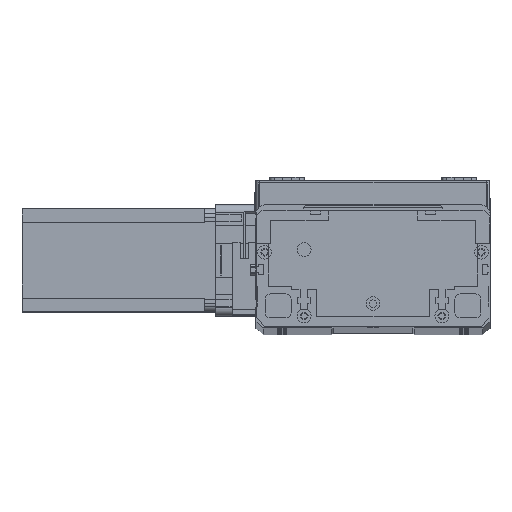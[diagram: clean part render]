
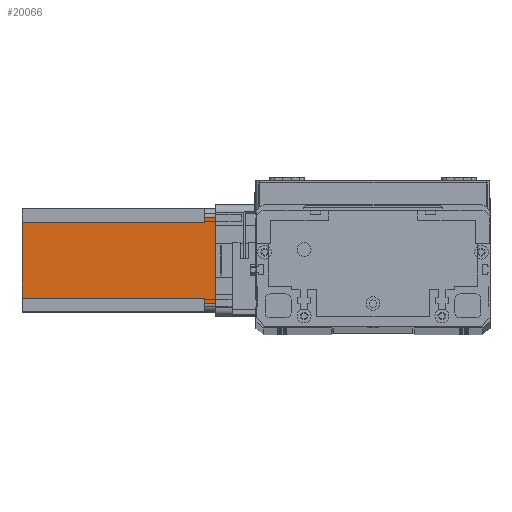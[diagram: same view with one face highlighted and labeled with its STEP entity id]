
A CAD part, top view. The second image highlights one B-rep face of the part: STEP entity #20066.
In plain terms, the highlighted planar face has unit normal (0, 0, 1) as drawn and (0, -1, 0) by its records, which use the part's own axes.
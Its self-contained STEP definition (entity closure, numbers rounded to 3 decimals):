
#59 = DIRECTION ( 'NONE',  ( 0., 0., 1. ) ) ;
#274 = CARTESIAN_POINT ( 'NONE',  ( 5., 0., 0. ) ) ;
#331 = VERTEX_POINT ( 'NONE', #19857 ) ;
#1055 = EDGE_CURVE ( 'NONE', #25810, #13653, #10072, .T. ) ;
#2536 = VERTEX_POINT ( 'NONE', #11632 ) ;
#2719 = LINE ( 'NONE', #26013, #24413 ) ;
#2932 = CARTESIAN_POINT ( 'NONE',  ( 8., 0., -6.5 ) ) ;
#3087 = CARTESIAN_POINT ( 'NONE',  ( 8., 0., -112.5 ) ) ;
#3163 = VERTEX_POINT ( 'NONE', #274 ) ;
#3291 = CARTESIAN_POINT ( 'NONE',  ( 0., 0., -112.5 ) ) ;
#3494 = VECTOR ( 'NONE', #13724, 1000. ) ;
#3515 = CARTESIAN_POINT ( 'NONE',  ( 55., 0., -112.5 ) ) ;
#5837 = EDGE_CURVE ( 'NONE', #15820, #20103, #25776, .T. ) ;
#7312 = LINE ( 'NONE', #3291, #18593 ) ;
#8416 = CARTESIAN_POINT ( 'NONE',  ( 52., 0., -112.5 ) ) ;
#9120 = AXIS2_PLACEMENT_3D ( 'NONE', #24606, #12289, #26595 ) ;
#9372 = VECTOR ( 'NONE', #20511, 1000. ) ;
#9956 = VECTOR ( 'NONE', #59, 1000. ) ;
#9962 = DIRECTION ( 'NONE',  ( 0., 0., 1. ) ) ;
#10072 = LINE ( 'NONE', #18759, #9372 ) ;
#11555 = DIRECTION ( 'NONE',  ( 0., 0., -1. ) ) ;
#11632 = CARTESIAN_POINT ( 'NONE',  ( 55., 0., 0. ) ) ;
#11659 = EDGE_CURVE ( 'NONE', #20103, #18761, #20452, .T. ) ;
#11802 = LINE ( 'NONE', #8416, #16690 ) ;
#12289 = DIRECTION ( 'NONE',  ( 0., -1., 0. ) ) ;
#13068 = VECTOR ( 'NONE', #9962, 1000. ) ;
#13653 = VERTEX_POINT ( 'NONE', #20992 ) ;
#13724 = DIRECTION ( 'NONE',  ( -1., 0., 0. ) ) ;
#14232 = VECTOR ( 'NONE', #18722, 1000. ) ;
#14467 = EDGE_CURVE ( 'NONE', #3163, #18761, #2719, .T. ) ;
#14918 = ORIENTED_EDGE ( 'NONE', *, *, #20765, .F. ) ;
#15820 = VERTEX_POINT ( 'NONE', #26426 ) ;
#15859 = CARTESIAN_POINT ( 'NONE',  ( 52., 0., -6.5 ) ) ;
#16555 = CARTESIAN_POINT ( 'NONE',  ( 8., 0., -6.5 ) ) ;
#16690 = VECTOR ( 'NONE', #21045, 1000. ) ;
#17157 = EDGE_CURVE ( 'NONE', #25810, #331, #11802, .T. ) ;
#17472 = ORIENTED_EDGE ( 'NONE', *, *, #17157, .F. ) ;
#18593 = VECTOR ( 'NONE', #24235, 1000. ) ;
#18722 = DIRECTION ( 'NONE',  ( 1., 0., 0. ) ) ;
#18759 = CARTESIAN_POINT ( 'NONE',  ( 52., 0., -6.5 ) ) ;
#18761 = VERTEX_POINT ( 'NONE', #20303 ) ;
#19587 = EDGE_LOOP ( 'NONE', ( #23459, #21429, #14918, #23020, #21288, #24261, #25615, #17472 ) ) ;
#19857 = CARTESIAN_POINT ( 'NONE',  ( 52., 0., -112.5 ) ) ;
#20066 = ADVANCED_FACE ( 'NONE', ( #21450 ), #22603, .T. ) ;
#20103 = VERTEX_POINT ( 'NONE', #16555 ) ;
#20303 = CARTESIAN_POINT ( 'NONE',  ( 5., 0., -6.5 ) ) ;
#20452 = LINE ( 'NONE', #2932, #3494 ) ;
#20511 = DIRECTION ( 'NONE',  ( 1., 0., 0. ) ) ;
#20765 = EDGE_CURVE ( 'NONE', #3163, #2536, #25132, .T. ) ;
#20908 = CARTESIAN_POINT ( 'NONE',  ( 0., 0., 0. ) ) ;
#20992 = CARTESIAN_POINT ( 'NONE',  ( 55., 0., -6.5 ) ) ;
#21045 = DIRECTION ( 'NONE',  ( 0., 0., -1. ) ) ;
#21288 = ORIENTED_EDGE ( 'NONE', *, *, #11659, .F. ) ;
#21429 = ORIENTED_EDGE ( 'NONE', *, *, #24125, .T. ) ;
#21450 = FACE_OUTER_BOUND ( 'NONE', #19587, .T. ) ;
#22603 = PLANE ( 'NONE',  #9120 ) ;
#23020 = ORIENTED_EDGE ( 'NONE', *, *, #14467, .T. ) ;
#23267 = EDGE_CURVE ( 'NONE', #15820, #331, #7312, .T. ) ;
#23459 = ORIENTED_EDGE ( 'NONE', *, *, #1055, .T. ) ;
#24125 = EDGE_CURVE ( 'NONE', #13653, #2536, #24636, .T. ) ;
#24235 = DIRECTION ( 'NONE',  ( 1., 0., 0. ) ) ;
#24261 = ORIENTED_EDGE ( 'NONE', *, *, #5837, .F. ) ;
#24413 = VECTOR ( 'NONE', #11555, 1000. ) ;
#24606 = CARTESIAN_POINT ( 'NONE',  ( 0., 0., -112.5 ) ) ;
#24636 = LINE ( 'NONE', #3515, #13068 ) ;
#25132 = LINE ( 'NONE', #20908, #14232 ) ;
#25615 = ORIENTED_EDGE ( 'NONE', *, *, #23267, .T. ) ;
#25776 = LINE ( 'NONE', #3087, #9956 ) ;
#25810 = VERTEX_POINT ( 'NONE', #15859 ) ;
#26013 = CARTESIAN_POINT ( 'NONE',  ( 5., 0., -112.5 ) ) ;
#26426 = CARTESIAN_POINT ( 'NONE',  ( 8., 0., -112.5 ) ) ;
#26595 = DIRECTION ( 'NONE',  ( 0., 0., -1. ) ) ;
